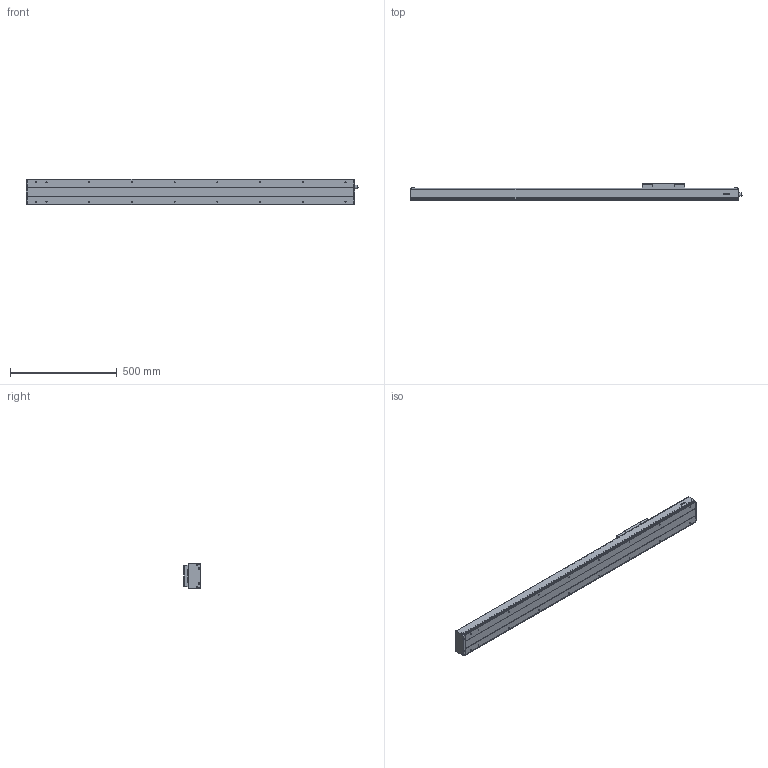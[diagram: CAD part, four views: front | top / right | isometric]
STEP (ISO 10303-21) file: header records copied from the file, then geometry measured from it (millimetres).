
FILE_DESCRIPTION(/* description */ (''),/* implementation_level */ '2;1');
FILE_NAME(/* name */ 'D:\混合母檔20191031\混和母檔\混和母檔\bin\Debug\Download\3D\KS120-20C-1050AFI\KS120-20C-1050AFI.stp',/* time_stamp */ '2019-11-04T15:30:44+08:00',/* author */ ('user'),/* organization */ (''),/* preprocessor_version */ 'ST-DEVELOPER v16.13',/* originating_system */ 'Autodesk Inventor 2018',/* authorisation */ '');
FILE_SCHEMA (('AUTOMOTIVE_DESIGN { 1 0 10303 214 3 1 1 }'));
Length unit declared in the file: millimetre
Products named in the file (3): KS120-20C-1050AFI; KS120-FI; KS120-SL
Assembly tree (2 placements, depth 2):
  KS120-20C-1050AFI
    KS120-FI
    KS120-SL
Bounding box: 1554.5 x 77 x 120 mm (x, y, z)
Volume: 3556550.7 mm3; surface area: 1197476.3 mm2
Topology: 4 solids, 11 shells, 1007 faces, 2589 edges, 1672 vertices
Faces by surface type: plane 575, cylinder 192, bspline 136, cone 86, torus 14, sphere 4
Full cylindrical faces by diameter (mm): 2.459 x6, 3.242 x4, 4 x32, 4.3 x4, 4.5 x12, 4.917 x18, 6 x6, 7 x4, 8 x9, 8.4 x12, 10.437 x1, 12 x2, 14 x1, 15 x1, 15.538 x1, 19 x1, 28 x1, 30 x1
Entity records: 33283 total; most frequent: CARTESIAN_POINT 10658, ORIENTED_EDGE 4590, DIRECTION 4219, EDGE_CURVE 2293, VERTEX_POINT 1584, LINE 1535, VECTOR 1535, AXIS2_PLACEMENT_3D 1342
